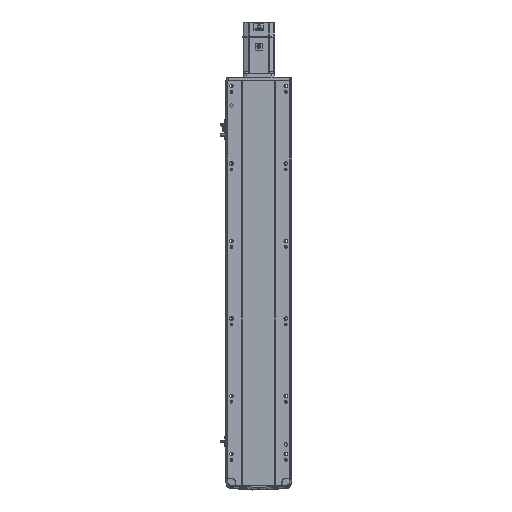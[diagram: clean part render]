
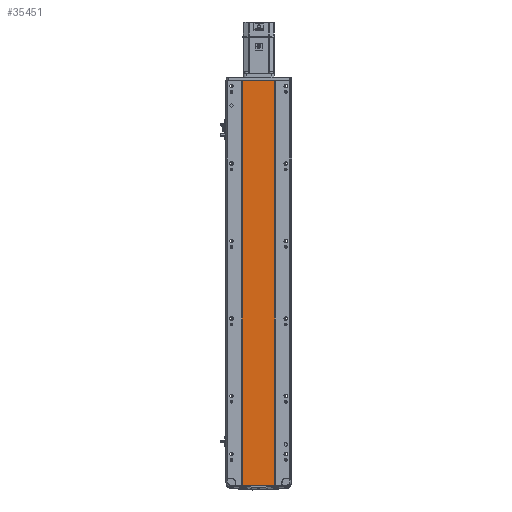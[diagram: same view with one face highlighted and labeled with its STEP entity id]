
A CAD part, front view. The second image highlights one B-rep face of the part: STEP entity #35451.
In plain terms, the highlighted planar face has unit normal (0, -1, 0).
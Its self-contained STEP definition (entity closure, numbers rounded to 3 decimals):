
#248 = ORIENTED_EDGE ( 'NONE', *, *, #4454, .F. ) ;
#859 = LINE ( 'NONE', #41442, #50178 ) ;
#1964 = VERTEX_POINT ( 'NONE', #45821 ) ;
#3086 = EDGE_CURVE ( 'NONE', #47636, #18008, #22520, .T. ) ;
#3110 = ORIENTED_EDGE ( 'NONE', *, *, #10572, .F. ) ;
#3549 = DIRECTION ( 'NONE',  ( 0., 1., 0. ) ) ;
#4454 = EDGE_CURVE ( 'NONE', #40359, #18008, #14158, .T. ) ;
#10572 = EDGE_CURVE ( 'NONE', #1964, #40359, #859, .T. ) ;
#12107 = CARTESIAN_POINT ( 'NONE',  ( -41.791, 1., 1043.5 ) ) ;
#12267 = VECTOR ( 'NONE', #33815, 1000. ) ;
#12641 = FACE_OUTER_BOUND ( 'NONE', #28252, .T. ) ;
#12757 = CARTESIAN_POINT ( 'NONE',  ( -41.791, 1., 0. ) ) ;
#12809 = DIRECTION ( 'NONE',  ( 0., 0., -1. ) ) ;
#13410 = VECTOR ( 'NONE', #12809, 1000. ) ;
#14158 = LINE ( 'NONE', #37070, #37171 ) ;
#18008 = VERTEX_POINT ( 'NONE', #46148 ) ;
#18564 = LINE ( 'NONE', #12107, #13410 ) ;
#20351 = PLANE ( 'NONE',  #29975 ) ;
#21126 = ORIENTED_EDGE ( 'NONE', *, *, #30160, .T. ) ;
#22520 = LINE ( 'NONE', #33303, #12267 ) ;
#28252 = EDGE_LOOP ( 'NONE', ( #50039, #248, #3110, #21126 ) ) ;
#29975 = AXIS2_PLACEMENT_3D ( 'NONE', #44695, #3549, #32157 ) ;
#30160 = EDGE_CURVE ( 'NONE', #1964, #47636, #18564, .T. ) ;
#32157 = DIRECTION ( 'NONE',  ( -1., 0., 0. ) ) ;
#33303 = CARTESIAN_POINT ( 'NONE',  ( 0., 0.999, 0. ) ) ;
#33380 = DIRECTION ( 'NONE',  ( 1., 0., 0. ) ) ;
#33815 = DIRECTION ( 'NONE',  ( 1., 0., 0. ) ) ;
#35451 = ADVANCED_FACE ( 'NONE', ( #12641 ), #20351, .F. ) ;
#36261 = CARTESIAN_POINT ( 'NONE',  ( 41.793, 0.998, 1043.5 ) ) ;
#37070 = CARTESIAN_POINT ( 'NONE',  ( 41.793, 0.998, 1043.5 ) ) ;
#37171 = VECTOR ( 'NONE', #44779, 1000. ) ;
#40359 = VERTEX_POINT ( 'NONE', #36261 ) ;
#41442 = CARTESIAN_POINT ( 'NONE',  ( 0., 0.999, 1043.5 ) ) ;
#44695 = CARTESIAN_POINT ( 'NONE',  ( 0., 0.999, 1043.5 ) ) ;
#44779 = DIRECTION ( 'NONE',  ( 0., 0., -1. ) ) ;
#45821 = CARTESIAN_POINT ( 'NONE',  ( -41.791, 1., 1043.5 ) ) ;
#46148 = CARTESIAN_POINT ( 'NONE',  ( 41.793, 0.998, 0. ) ) ;
#47636 = VERTEX_POINT ( 'NONE', #12757 ) ;
#50039 = ORIENTED_EDGE ( 'NONE', *, *, #3086, .T. ) ;
#50178 = VECTOR ( 'NONE', #33380, 1000. ) ;
